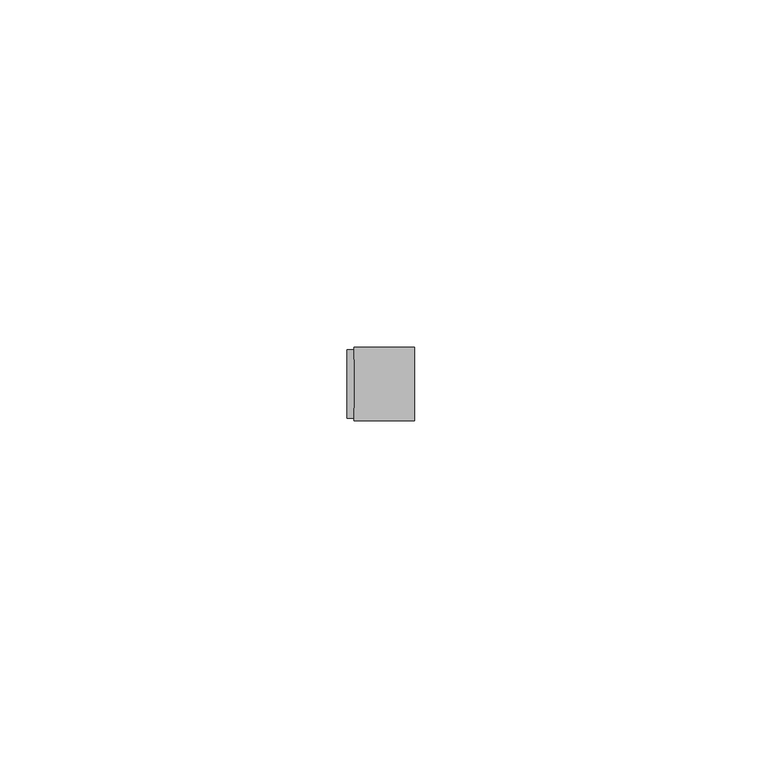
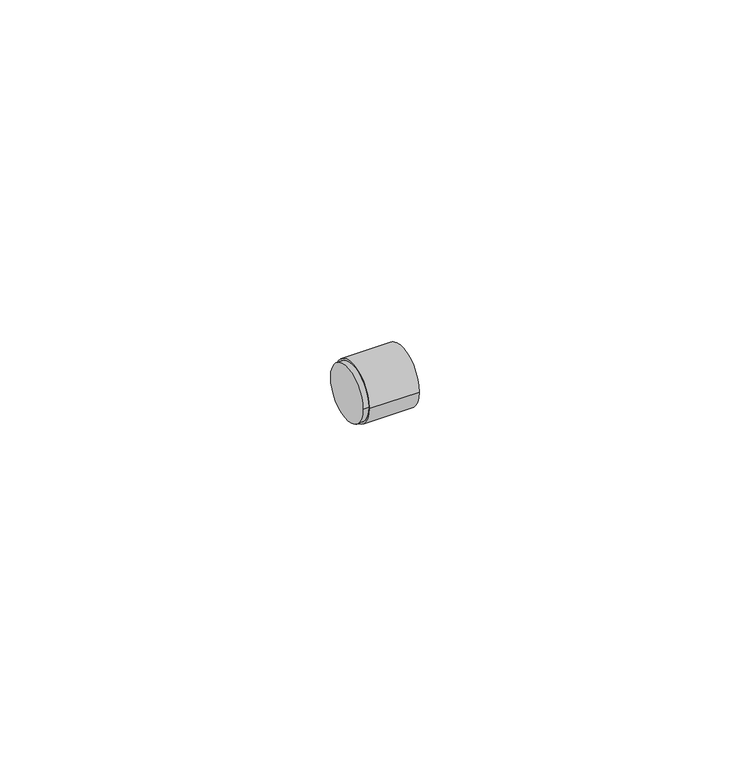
"""IFC4 building model written with IfcOpenShell, lengths in millimetres: pipe fitting geometry, Bucha de redução reta - Soldada - CU : Padrão."""

from ifc_helpers import new_model, si_unit, frame, origin, place, context, project, spatial, circle_curve, source, transform, mapped, element, save
from ifc_brep_helpers import plane_surface, cylinder_surface, advanced_brep


def pipe_fitting_089e84c0(model_context):
    return source(origin(), model_context, "Body", "AdvancedBrep", [
        advanced_brep(
        [(0.0, -4.9, 0.0), (0.0, 4.9, 0.0), (1.0, -4.9, 0.0), (1.0, 4.9, 0.0), (9.6744, -5.2552, 0.0), (9.6744, 5.2552, 0.0), (1.0, 5.2552, 0.0), (1.0, -5.2552, 0.0)],
        [
            (0, 1, circle_curve(frame((0.0, 0.0, 0.0), z_axis=(-1.0, 0.0, 0.0), x_axis=(0.0, 1.0, 0.0)), 4.9)),
            (1, 0, circle_curve(frame((0.0, 0.0, 0.0), z_axis=(-1.0, 0.0, 0.0), x_axis=(0.0, 1.0, 0.0)), 4.9)),
            (0, 2),
            (2, 3, circle_curve(frame((1.0, 0.0, 0.0), z_axis=(-1.0, 0.0, 0.0), x_axis=(0.0, 1.0, 0.0)), 4.9)),
            (3, 1),
            (3, 2, circle_curve(frame((1.0, 0.0, 0.0), z_axis=(-1.0, 0.0, 0.0), x_axis=(0.0, 1.0, 0.0)), 4.9)),
            (4, 5, circle_curve(frame((9.6744, 0.0, 0.0), z_axis=(1.0, 0.0, 0.0), x_axis=(0.0, 1.0, 0.0)), 5.2552)),
            (5, 4, circle_curve(frame((9.6744, 0.0, 0.0), z_axis=(1.0, 0.0, 0.0), x_axis=(0.0, 1.0, 0.0)), 5.2552)),
            (6, 7, circle_curve(frame((1.0, 0.0, 0.0), z_axis=(1.0, 0.0, 0.0), x_axis=(0.0, 1.0, 0.0)), 5.2552)),
            (7, 4),
            (5, 6),
            (7, 6, circle_curve(frame((1.0, 0.0, 0.0), z_axis=(1.0, 0.0, 0.0), x_axis=(0.0, 1.0, 0.0)), 5.2552)),
        ],
        [
            plane_surface(frame((0.0, 0.0, 0.0), z_axis=(-1.0, 0.0, 0.0), x_axis=(0.0, 0.0, 1.0))),
            cylinder_surface(frame((0.0, 0.0, 0.0), z_axis=(-1.0, 0.0, 0.0), x_axis=(0.0, 1.0, 0.0)), 4.9),
            plane_surface(frame((9.6744, 0.0, 0.0), z_axis=(1.0, 0.0, 0.0), x_axis=(0.0, 0.0, 1.0))),
            cylinder_surface(frame((1.0, 0.0, 0.0), z_axis=(-1.0, 0.0, 0.0), x_axis=(0.0, 1.0, 0.0)), 5.2552),
            plane_surface(frame((1.0, 0.0, 0.0), z_axis=(-1.0, 0.0, 0.0), x_axis=(0.0, 0.0, 1.0))),
        ],
        [
            (0, [[1, 2]]),
            (1, [[-1, 3, 4, 5]]),
            (1, [[-2, -5, 6, -3]]),
            (2, [[7, 8]]),
            (3, [[9, 10, -8, 11]]),
            (3, [[12, -11, -7, -10]]),
            (4, [[-9, -12], [-4, -6]]),
        ],
    ),
    ])


if __name__ == "__main__":
    model = new_model("IFC4")
    model_context = context("Model", 3, world=origin())
    ifc_project = project(units=[si_unit("LENGTHUNIT", "METRE", prefix="MILLI")], contexts=[model_context])
    site = spatial("IfcSite", under=ifc_project)
    building = spatial("IfcBuilding", under=site)
    placement = place(None, origin())
    pipe_fitting_shape = pipe_fitting_089e84c0(model_context)
    element("IfcPipeFitting", 1, ObjectType="Bucha de redução reta - Soldada - CU : Padrão", at=placement, inside=building, context=model_context, shape_type="MappedRepresentation", body=[
        mapped(pipe_fitting_shape, transform((0.0, 0.0, 0.0), x_axis=(1.0, 0.0, 0.0), y_axis=(0.0, 1.0, 0.0), z_axis=(0.0, 0.0, 1.0))),
    ])
    save(model, "model.ifc")
